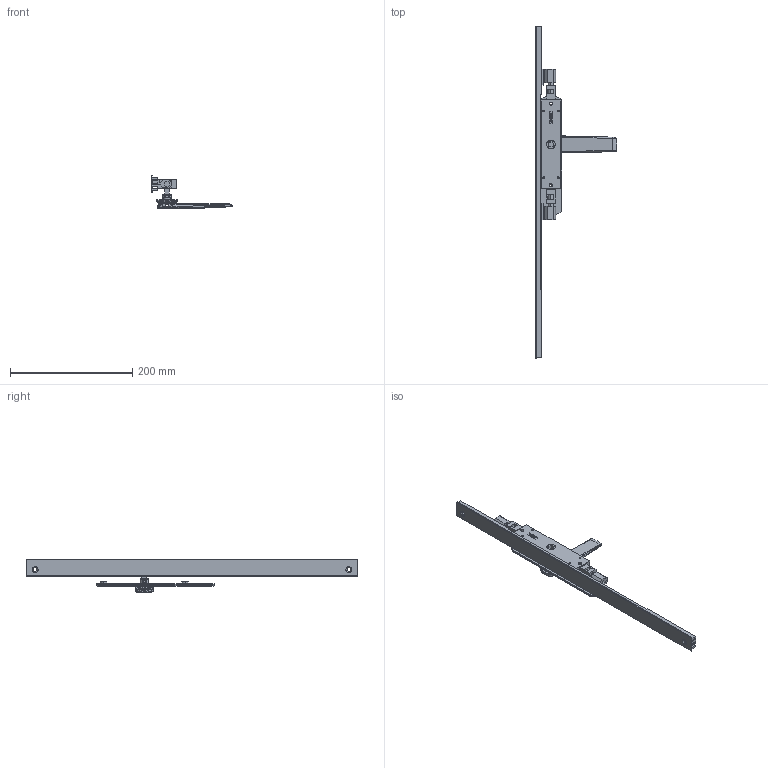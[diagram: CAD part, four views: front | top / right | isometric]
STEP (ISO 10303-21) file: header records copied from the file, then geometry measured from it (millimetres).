
FILE_DESCRIPTION (( 'STEP AP214' ), '1' );
FILE_NAME ('TPL-W-EU-603-U 06Nov2024.STEP', '2024-11-27T01:09:02', ( '' ), ( '' ), 'SwSTEP 2.0', 'SolidWorks 2023', '' );
FILE_SCHEMA (( 'AUTOMOTIVE_DESIGN' ));
Length unit declared in the file: millimetre
Products named in the file (18): Copy of LKC-585 Rotator body zinc^Copy of TPGen2 handle non-keyed short zinc - simplified_TPL-W-EU-103 04Nov2024; Copy of TPLGen2 lock body non-keyed assembly^TPL-W-EU-103 04Nov2024_Bolts retracted; Copy of TPGen2 handle non-keyed short zinc - simplified^TPL-W-EU-103 04Nov2024_Left; Copy of Adapter CnE - simplfied^TPL-W-EU-103 04Nov2024_26mm backset; Copy of Adapter DnF - simplfied^TPL-W-EU-103 04Nov2024_26mm backset; LKC-531 Lock twinpoint transmission rod wood system^TPL-W-EU-103 04Nov2024_Standard Range 2891.7mm; TPL-W-EU-603-U 06Nov2024; Copy of LKC-516 Escutcheon plate unkeyed 195mm long zinc - simplified^Copy of TPGen2 handle non-keyed short zinc - simplified_TPL-W-EU-103 04Nov2024; TPLGen2 push rod - simplified^Copy of TPLGen2 lock body non-keyed assembly_TPL-W-EU-103 04Nov2024_Female thread M10; Copy of LKC-586 Spindle square 8mm with M4 hole^Copy of TPGen2 handle non-keyed short zinc - simplified_TPL-W-EU-103 04Nov2024_25mm; Copy of COV-112-C Cover C TPLGen2 Lock body^TPL-W-EU-103 04Nov2024; Bolt(2)^TPL-W-EU-103 04Nov2024; Copy of Copy of LKC-531 Lock twinpoint transmission rod wood system^TPL-W-EU-103 04Nov2024_Standard Range 2891.7mm; COV-112-B Cover B suit TPLGen2 standard range^TPL-W-EU-103 04Nov2024_2870mm; Copy of LKC-584 Pivot body zinc - simplified^Copy of TPGen2 handle non-keyed short zinc - simplified_TPL-W-EU-103 04Nov2024; Copy of TPLGen2 lock body non-keyed^Copy of TPLGen2 lock body non-keyed assembly_TPL-W-EU-103 04Nov2024; Copy of COV-112-A Cover A suit TPLGen2 standard range^TPL-W-EU-103 04Nov2024_1335mm; Copy of LKC-505 Swing handle zinc - simplified^Copy of TPGen2 handle non-keyed short zinc - simplified_TPL-W-EU-103 04Nov2024
Assembly tree (15 placements, depth 3):
  TPL-W-EU-603-U 06Nov2024
    Copy of TPLGen2 lock body non-keyed assembly^TPL-W-EU-103 04Nov2024_Bolts retracted
      Copy of TPLGen2 lock body non-keyed^Copy of TPLGen2 lock body non-keyed assembly_TPL-W-EU-103 04Nov2024
      TPLGen2 push rod - simplified^Copy of TPLGen2 lock body non-keyed assembly_TPL-W-EU-103 04Nov2024_Female thread M10  x2
    Copy of TPGen2 handle non-keyed short zinc - simplified^TPL-W-EU-103 04Nov2024_Left
      Copy of LKC-516 Escutcheon plate unkeyed 195mm long zinc - simplified^Copy of TPGen2 handle non-keyed short zinc - simplified_TPL-W-EU-103 04Nov2024
      Copy of LKC-505 Swing handle zinc - simplified^Copy of TPGen2 handle non-keyed short zinc - simplified_TPL-W-EU-103 04Nov2024
      Copy of LKC-585 Rotator body zinc^Copy of TPGen2 handle non-keyed short zinc - simplified_TPL-W-EU-103 04Nov2024
      Copy of LKC-586 Spindle square 8mm with M4 hole^Copy of TPGen2 handle non-keyed short zinc - simplified_TPL-W-EU-103 04Nov2024_25mm
      Copy of LKC-584 Pivot body zinc - simplified^Copy of TPGen2 handle non-keyed short zinc - simplified_TPL-W-EU-103 04Nov2024
    Copy of COV-112-C Cover C TPLGen2 Lock body^TPL-W-EU-103 04Nov2024
    Copy of Copy of LKC-531 Lock twinpoint transmission rod wood system^TPL-W-EU-103 04Nov2024_Standard Range 2891.7mm
    LKC-531 Lock twinpoint transmission rod wood system^TPL-W-EU-103 04Nov2024_Standard Range 2891.7mm
    Copy of Adapter DnF - simplfied^TPL-W-EU-103 04Nov2024_26mm backset
    Copy of Adapter CnE - simplfied^TPL-W-EU-103 04Nov2024_26mm backset
  Bolt(2)^TPL-W-EU-103 04Nov2024
  COV-112-B Cover B suit TPLGen2 standard range^TPL-W-EU-103 04Nov2024_2870mm
  Copy of COV-112-A Cover A suit TPLGen2 standard range^TPL-W-EU-103 04Nov2024_1335mm
Bounding box: 134.12 x 544 x 53.86 mm (x, y, z)
Volume: 208678.9 mm3; surface area: 119809.6 mm2
Topology: 13 solids, 13 shells, 851 faces, 2100 edges, 1304 vertices
Faces by surface type: plane 304, bspline 241, cylinder 186, cone 66, torus 46, sphere 8
Entity records: 30683 total; most frequent: CARTESIAN_POINT 12559, ORIENTED_EDGE 4008, DIRECTION 3198, EDGE_CURVE 2004, VERTEX_POINT 1244, AXIS2_PLACEMENT_3D 1157, EDGE_LOOP 898, LINE 884
